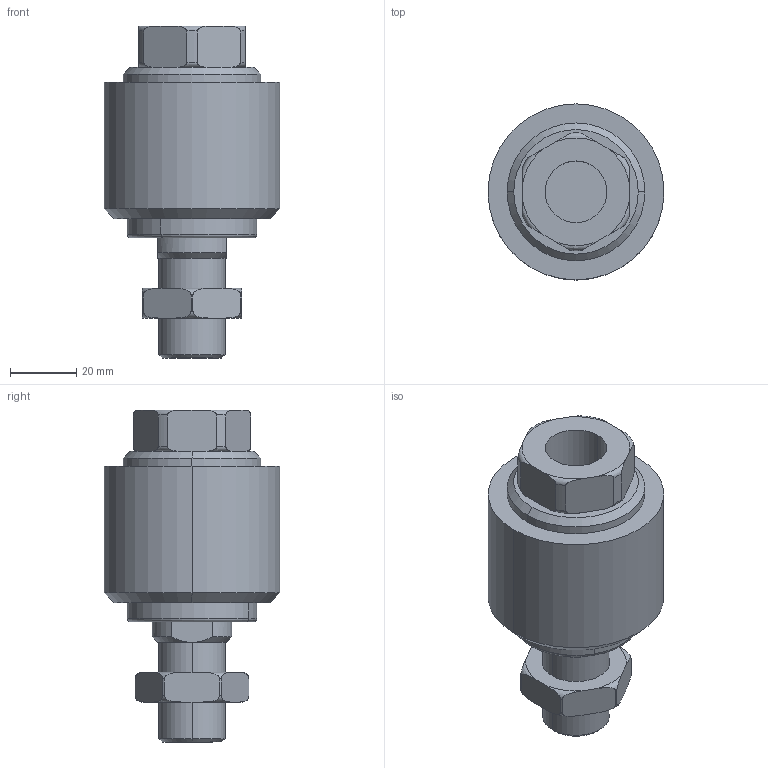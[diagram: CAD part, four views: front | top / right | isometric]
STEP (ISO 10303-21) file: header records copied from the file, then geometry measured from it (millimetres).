
FILE_DESCRIPTION(('CATIA V5 STEP Exchange'),'2;1');
FILE_NAME('D:\stp file for catalog\BAST-FC\FC 20.stp','2018-06-12T05:58:31+00:00',('none'),('none'),'CATIA Version 5-6 Release 2016','CATIA V5 STEP AP203','none');
FILE_SCHEMA(('CONFIG_CONTROL_DESIGN'));
Length unit declared in the file: millimetre
Products named in the file (1): FC 20
Bounding box: 53 x 53 x 100 mm (x, y, z)
Volume: 119883.3 mm3; surface area: 21583.3 mm2
Topology: 2 solids, 4 shells, 96 faces, 244 edges, 160 vertices
Faces by surface type: cylinder 32, torus 28, plane 26, cone 10
Entity records: 3423 total; most frequent: CARTESIAN_POINT 1329, ORIENTED_EDGE 488, DIRECTION 298, EDGE_CURVE 244, AXIS2_PLACEMENT_3D 164, VERTEX_POINT 160, CIRCLE 108, EDGE_LOOP 106
